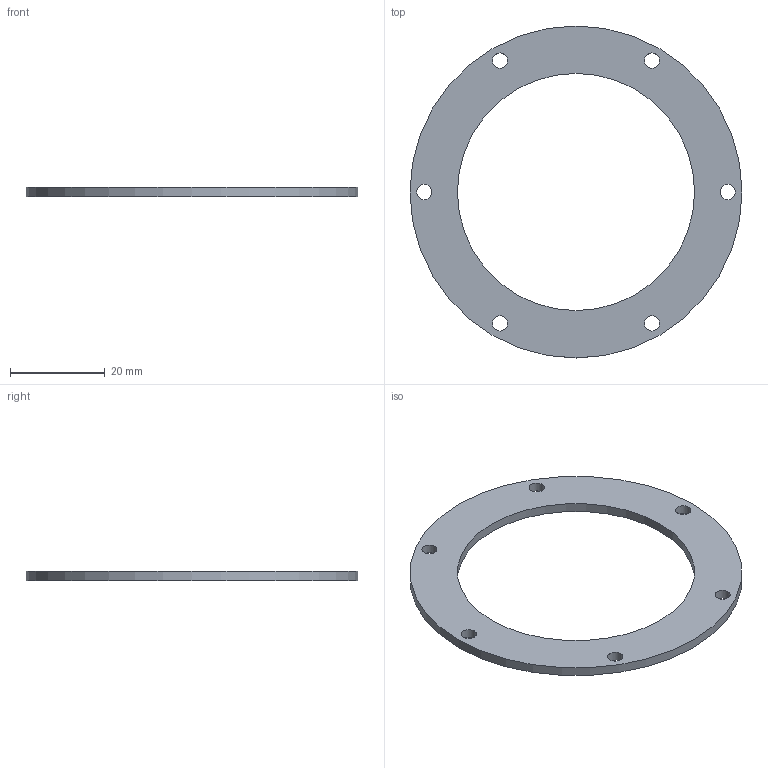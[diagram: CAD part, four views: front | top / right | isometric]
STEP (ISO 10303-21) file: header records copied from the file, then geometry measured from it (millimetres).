
FILE_DESCRIPTION(('Open CASCADE Model'),'2;1');
FILE_NAME('Open CASCADE Shape Model','2026-11-05T01:23:30',('Author'),( 'Open CASCADE'),'Open CASCADE STEP processor 7.8','Open CASCADE 7.8' ,'Unknown');
FILE_SCHEMA(('AUTOMOTIVE_DESIGN { 1 0 10303 214 1 1 1 1 }'));
Length unit declared in the file: millimetre
Products named in the file (1): Open CASCADE STEP translator 7.8 7
Bounding box: 70 x 70 x 2 mm (x, y, z)
Volume: 3673.4 mm3; surface area: 4548 mm2
Topology: 1 solids, 1 shells, 10 faces, 24 edges, 16 vertices
Faces by surface type: cylinder 8, plane 2
Full cylindrical faces by diameter (mm): 3.2 x6, 50 x1, 70 x1
Entity records: 660 total; most frequent: CARTESIAN_POINT 111, DIRECTION 108, ORIENTED_EDGE 48, PCURVE 48, DEFINITIONAL_REPRESENTATION 48, LINE 40, VECTOR 40, CIRCLE 30
